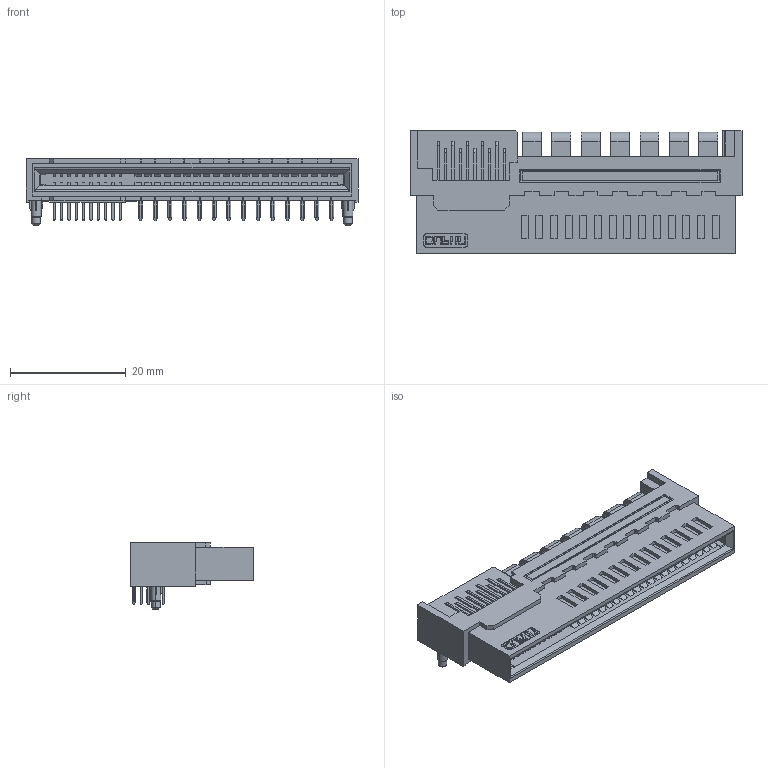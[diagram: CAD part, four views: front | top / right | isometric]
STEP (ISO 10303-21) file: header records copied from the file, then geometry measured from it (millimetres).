
FILE_DESCRIPTION (( 'STEP AP214' ), '1' );
FILE_NAME ('9302-M4S20P14P11ACB30DA.STEP', '2023-05-31T01:24:22', ( '' ), ( '' ), 'SwSTEP 2.0', 'SolidWorks 2011', '' );
FILE_SCHEMA (( 'AUTOMOTIVE_DESIGN' ));
Length unit declared in the file: millimetre
Products named in the file (1): 9302-M4S20P14P11ACB30DA
Bounding box: 57.38 x 21.24 x 11.5 mm (x, y, z)
Volume: 5554.9 mm3; surface area: 5950.6 mm2
Topology: 1 solids, 21 shells, 1894 faces, 5206 edges, 3435 vertices
Faces by surface type: plane 1393, cylinder 493, cone 8
Entity records: 80628 total; most frequent: CARTESIAN_POINT 11232, ORIENTED_EDGE 10412, DIRECTION 9650, EDGE_CURVE 5206, VECTOR 4088, LINE 4088, VERTEX_POINT 3435, AXIS2_PLACEMENT_3D 2781
